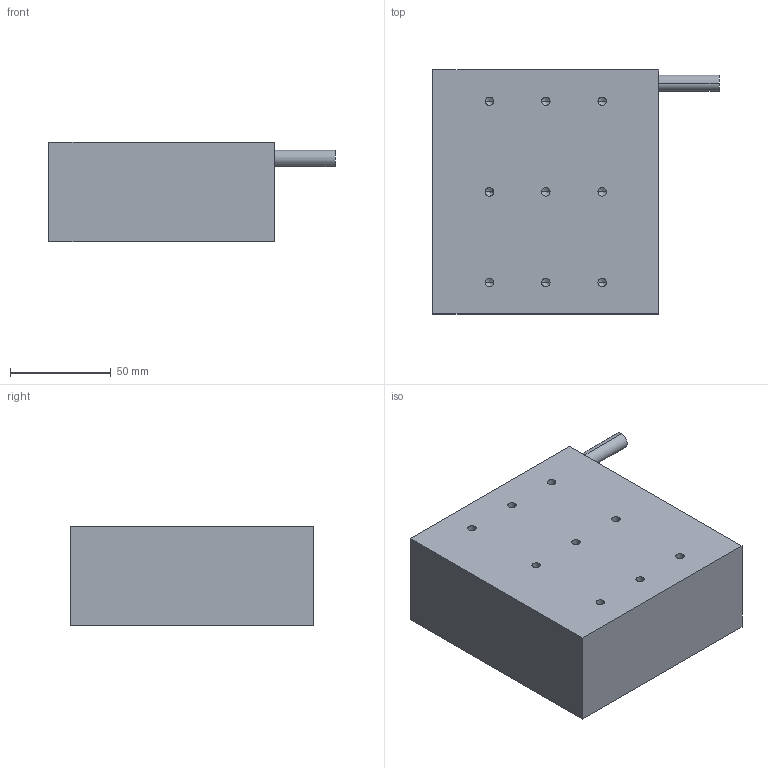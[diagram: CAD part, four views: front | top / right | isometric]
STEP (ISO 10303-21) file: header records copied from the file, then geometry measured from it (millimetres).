
FILE_DESCRIPTION (( 'STEP AP214' ), '1' );
FILE_NAME ('WKM100A雄赽.STEP', '2025-09-05T11:58:21', ( '' ), ( '' ), 'SwSTEP 2.0', 'SolidWorks 2016', '' );
FILE_SCHEMA (( 'AUTOMOTIVE_DESIGN' ));
Length unit declared in the file: millimetre
Products named in the file (1): WKM100A雄赽
Bounding box: 142 x 121 x 49.3 mm (x, y, z)
Volume: 668883.3 mm3; surface area: 51505.7 mm2
Topology: 1 solids, 1 shells, 45 faces, 108 edges, 57 vertices
Faces by surface type: cylinder 20, cone 18, plane 7
Entity records: 1404 total; most frequent: DIRECTION 222, CARTESIAN_POINT 193, ORIENTED_EDGE 180, EDGE_CURVE 90, AXIS2_PLACEMENT_3D 86, VERTEX_POINT 57, EDGE_LOOP 55, LINE 50
